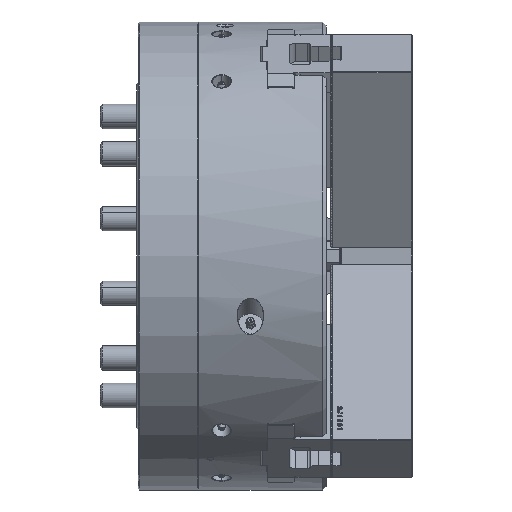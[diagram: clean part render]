
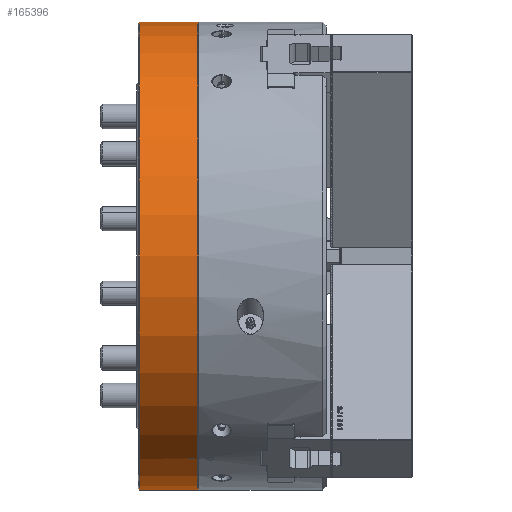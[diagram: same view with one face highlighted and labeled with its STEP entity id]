
A CAD part, front view. The second image highlights one B-rep face of the part: STEP entity #165396.
In plain terms, the highlighted cylindrical face has radius 190.5 mm (diameter 381 mm), a partial arc.
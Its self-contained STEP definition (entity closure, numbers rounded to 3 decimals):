
#577 = VERTEX_POINT ( 'NONE', #154079 ) ;
#1482 = EDGE_CURVE ( 'NONE', #577, #169694, #26886, .T. ) ;
#3222 = LINE ( 'NONE', #92794, #164099 ) ;
#3766 = DIRECTION ( 'NONE',  ( -1., 0., 0. ) ) ;
#13615 = CARTESIAN_POINT ( 'NONE',  ( -107., -95.683, -164.727 ) ) ;
#21062 = CARTESIAN_POINT ( 'NONE',  ( -104.5, 0., 190.5 ) ) ;
#25176 = EDGE_LOOP ( 'NONE', ( #84172, #141079, #33819, #49123 ) ) ;
#25200 = EDGE_LOOP ( 'NONE', ( #69073, #177594, #128598, #83374 ) ) ;
#26886 = LINE ( 'NONE', #84386, #170305 ) ;
#33729 = VERTEX_POINT ( 'NONE', #114050 ) ;
#33819 = ORIENTED_EDGE ( 'NONE', *, *, #35287, .F. ) ;
#35287 = EDGE_CURVE ( 'NONE', #110050, #169694, #171348, .T. ) ;
#36860 = VERTEX_POINT ( 'NONE', #117752 ) ;
#49109 = EDGE_CURVE ( 'NONE', #85479, #33729, #86584, .T. ) ;
#49123 = ORIENTED_EDGE ( 'NONE', *, *, #92441, .F. ) ;
#54186 = EDGE_CURVE ( 'NONE', #577, #170079, #84057, .T. ) ;
#57255 = VECTOR ( 'NONE', #74351, 1000. ) ;
#57353 = CARTESIAN_POINT ( 'NONE',  ( -112., -95.683, -164.727 ) ) ;
#65541 = AXIS2_PLACEMENT_3D ( 'NONE', #67862, #127281, #186723 ) ;
#67862 = CARTESIAN_POINT ( 'NONE',  ( -112., 0., 0. ) ) ;
#68393 = CARTESIAN_POINT ( 'NONE',  ( -152., 0., 0. ) ) ;
#69073 = ORIENTED_EDGE ( 'NONE', *, *, #178765, .F. ) ;
#70491 = DIRECTION ( 'NONE',  ( 0., 0., 1. ) ) ;
#70893 = EDGE_CURVE ( 'NONE', #36860, #115774, #144062, .T. ) ;
#71327 = CARTESIAN_POINT ( 'NONE',  ( -112., -94.817, -165.227 ) ) ;
#74351 = DIRECTION ( 'NONE',  ( -1., 0., 0. ) ) ;
#81297 = FACE_BOUND ( 'NONE', #25176, .T. ) ;
#83374 = ORIENTED_EDGE ( 'NONE', *, *, #49109, .F. ) ;
#84057 = CIRCLE ( 'NONE', #133842, 190.5 ) ;
#84159 = CARTESIAN_POINT ( 'NONE',  ( -245.149, 0., 0. ) ) ;
#84172 = ORIENTED_EDGE ( 'NONE', *, *, #54186, .F. ) ;
#84386 = CARTESIAN_POINT ( 'NONE',  ( -245.149, -94.817, -165.227 ) ) ;
#85479 = VERTEX_POINT ( 'NONE', #175152 ) ;
#86584 = CIRCLE ( 'NONE', #127059, 190.5 ) ;
#91968 = DIRECTION ( 'NONE',  ( -1., 0., 0. ) ) ;
#92441 = EDGE_CURVE ( 'NONE', #170079, #110050, #116292, .T. ) ;
#92794 = CARTESIAN_POINT ( 'NONE',  ( -245.149, 0., -190.5 ) ) ;
#97196 = CARTESIAN_POINT ( 'NONE',  ( -245.149, 0., 190.5 ) ) ;
#100681 = CARTESIAN_POINT ( 'NONE',  ( -104.5, 0., 0. ) ) ;
#102965 = AXIS2_PLACEMENT_3D ( 'NONE', #84159, #186497, #143588 ) ;
#104709 = DIRECTION ( 'NONE',  ( 0., 0., 1. ) ) ;
#110050 = VERTEX_POINT ( 'NONE', #57353 ) ;
#114050 = CARTESIAN_POINT ( 'NONE',  ( -152., 0., 190.5 ) ) ;
#115774 = VERTEX_POINT ( 'NONE', #21062 ) ;
#116098 = AXIS2_PLACEMENT_3D ( 'NONE', #100681, #116255, #70491 ) ;
#116255 = DIRECTION ( 'NONE',  ( -1., 0., 0. ) ) ;
#116292 = LINE ( 'NONE', #131856, #57255 ) ;
#117752 = CARTESIAN_POINT ( 'NONE',  ( -104.5, 0., -190.5 ) ) ;
#121310 = VECTOR ( 'NONE', #3766, 1000. ) ;
#127059 = AXIS2_PLACEMENT_3D ( 'NONE', #68393, #157985, #141468 ) ;
#127281 = DIRECTION ( 'NONE',  ( 1., 0., 0. ) ) ;
#128598 = ORIENTED_EDGE ( 'NONE', *, *, #131209, .T. ) ;
#131209 = EDGE_CURVE ( 'NONE', #115774, #33729, #138167, .T. ) ;
#131856 = CARTESIAN_POINT ( 'NONE',  ( -245.149, -95.683, -164.727 ) ) ;
#133842 = AXIS2_PLACEMENT_3D ( 'NONE', #166027, #91968, #104709 ) ;
#138167 = LINE ( 'NONE', #97196, #121310 ) ;
#139766 = CYLINDRICAL_SURFACE ( 'NONE', #102965, 190.5 ) ;
#141079 = ORIENTED_EDGE ( 'NONE', *, *, #1482, .T. ) ;
#141468 = DIRECTION ( 'NONE',  ( 0., 0., 1. ) ) ;
#143588 = DIRECTION ( 'NONE',  ( 0., 0., 1. ) ) ;
#144062 = CIRCLE ( 'NONE', #116098, 190.5 ) ;
#152217 = DIRECTION ( 'NONE',  ( -1., 0., 0. ) ) ;
#154079 = CARTESIAN_POINT ( 'NONE',  ( -107., -94.817, -165.227 ) ) ;
#156499 = DIRECTION ( 'NONE',  ( -1., 0., 0. ) ) ;
#157985 = DIRECTION ( 'NONE',  ( -1., 0., 0. ) ) ;
#159145 = FACE_OUTER_BOUND ( 'NONE', #25200, .T. ) ;
#164099 = VECTOR ( 'NONE', #152217, 1000. ) ;
#165396 = ADVANCED_FACE ( 'NONE', ( #159145, #81297 ), #139766, .T. ) ;
#166027 = CARTESIAN_POINT ( 'NONE',  ( -107., 0., 0. ) ) ;
#169694 = VERTEX_POINT ( 'NONE', #71327 ) ;
#170079 = VERTEX_POINT ( 'NONE', #13615 ) ;
#170305 = VECTOR ( 'NONE', #156499, 1000. ) ;
#171348 = CIRCLE ( 'NONE', #65541, 190.5 ) ;
#175152 = CARTESIAN_POINT ( 'NONE',  ( -152., 0., -190.5 ) ) ;
#177594 = ORIENTED_EDGE ( 'NONE', *, *, #70893, .T. ) ;
#178765 = EDGE_CURVE ( 'NONE', #36860, #85479, #3222, .T. ) ;
#186497 = DIRECTION ( 'NONE',  ( -1., 0., 0. ) ) ;
#186723 = DIRECTION ( 'NONE',  ( 0., 0., -1. ) ) ;
